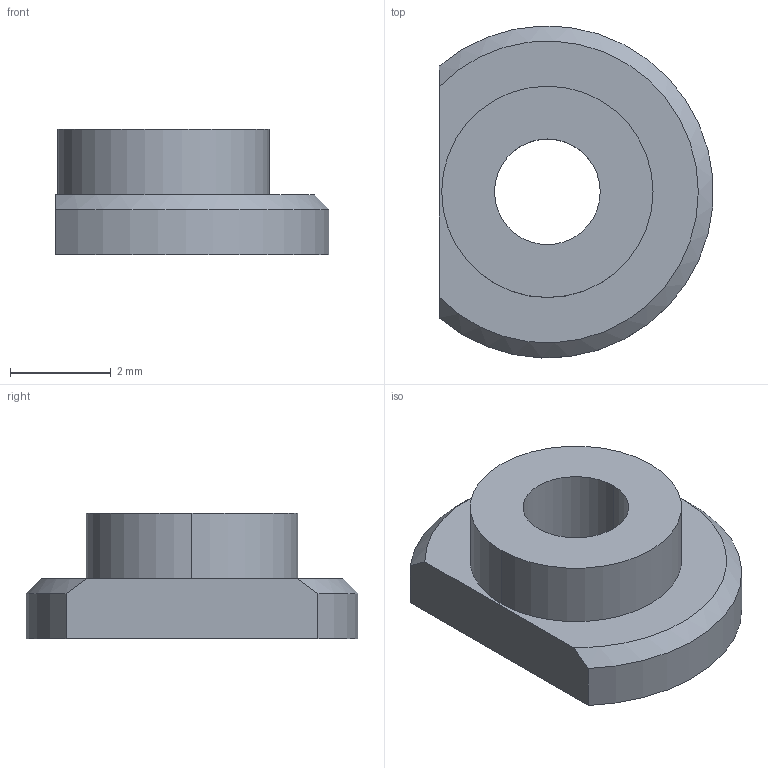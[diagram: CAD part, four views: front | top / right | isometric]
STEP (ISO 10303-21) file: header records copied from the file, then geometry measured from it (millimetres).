
FILE_DESCRIPTION (( 'STEP AP203' ), '1' );
FILE_NAME ('MN02176D02_00.STEP', '2022-08-18T09:20:42', ( '' ), ( '' ), 'SwSTEP 2.0', 'SolidWorks 2020', '' );
FILE_SCHEMA (( 'CONFIG_CONTROL_DESIGN' ));
Length unit declared in the file: millimetre
Products named in the file (1): MN02176D02_00
Bounding box: 5.44 x 6.6 x 2.5 mm (x, y, z)
Volume: 44.9 mm3; surface area: 108.4 mm2
Topology: 1 solids, 1 shells, 10 faces, 21 edges, 14 vertices
Faces by surface type: cylinder 5, plane 4, cone 1
Entity records: 359 total; most frequent: DIRECTION 52, CARTESIAN_POINT 52, ORIENTED_EDGE 42, AXIS2_PLACEMENT_3D 22, EDGE_CURVE 21, VERTEX_POINT 14, EDGE_LOOP 13, CIRCLE 11
